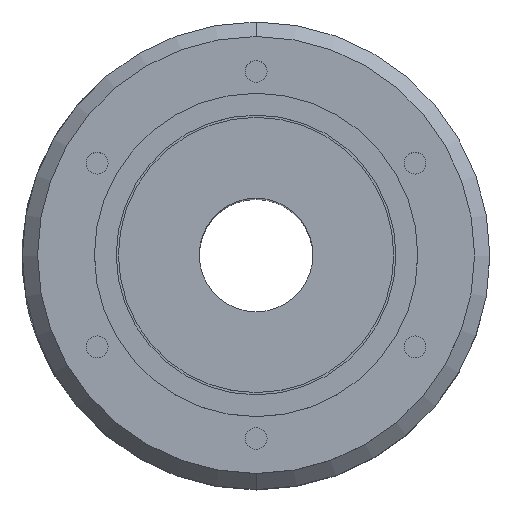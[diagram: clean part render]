
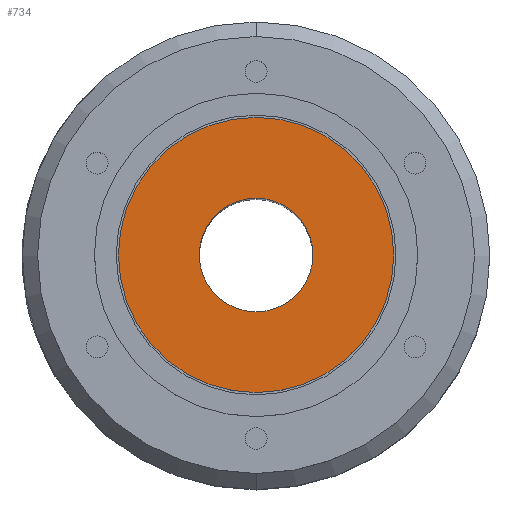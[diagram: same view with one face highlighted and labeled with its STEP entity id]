
A CAD part, top view. The second image highlights one B-rep face of the part: STEP entity #734.
In plain terms, the highlighted planar face has unit normal (0, 0, 1).
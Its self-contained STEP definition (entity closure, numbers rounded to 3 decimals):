
#261 = VERTEX_POINT ( 'NONE', #1274 ) ;
#262 = VERTEX_POINT ( 'NONE', #1275 ) ;
#285 = EDGE_CURVE ( 'NONE', #261, #262, #1307, .T. ) ;
#369 = VERTEX_POINT ( 'NONE', #1490 ) ;
#370 = EDGE_CURVE ( 'NONE', #385, #369, #1488, .T. ) ;
#385 = VERTEX_POINT ( 'NONE', #1528 ) ;
#724 = ORIENTED_EDGE ( 'NONE', *, *, #808, .T. ) ;
#734 = ADVANCED_FACE ( 'NONE', ( #2094, #2112 ), #2118, .T. ) ;
#735 = EDGE_LOOP ( 'NONE', ( #724, #751 ) ) ;
#743 = EDGE_CURVE ( 'NONE', #262, #261, #2162, .T. ) ;
#744 = ORIENTED_EDGE ( 'NONE', *, *, #285, .T. ) ;
#747 = ORIENTED_EDGE ( 'NONE', *, *, #743, .T. ) ;
#751 = ORIENTED_EDGE ( 'NONE', *, *, #370, .T. ) ;
#752 = EDGE_LOOP ( 'NONE', ( #744, #747 ) ) ;
#808 = EDGE_CURVE ( 'NONE', #369, #385, #2240, .T. ) ;
#1274 = CARTESIAN_POINT ( 'NONE',  ( 31.5, 0., 167. ) ) ;
#1275 = CARTESIAN_POINT ( 'NONE',  ( -31.5, 0., 167. ) ) ;
#1285 = DIRECTION ( 'NONE',  ( 1., 0., 0. ) ) ;
#1286 = DIRECTION ( 'NONE',  ( 0., 0., 1. ) ) ;
#1296 = AXIS2_PLACEMENT_3D ( 'NONE', #1306, #1286, #1285 ) ;
#1306 = CARTESIAN_POINT ( 'NONE',  ( 0., 0., 167. ) ) ;
#1307 = CIRCLE ( 'NONE', #1296, 31.5 ) ;
#1477 = AXIS2_PLACEMENT_3D ( 'NONE', #1489, #1497, #1539 ) ;
#1488 = CIRCLE ( 'NONE', #1477, 13. ) ;
#1489 = CARTESIAN_POINT ( 'NONE',  ( 0., 0., 167. ) ) ;
#1490 = CARTESIAN_POINT ( 'NONE',  ( 0., 13., 167. ) ) ;
#1497 = DIRECTION ( 'NONE',  ( 0., 0., -1. ) ) ;
#1528 = CARTESIAN_POINT ( 'NONE',  ( 0., -13., 167. ) ) ;
#1539 = DIRECTION ( 'NONE',  ( 0., 1., 0. ) ) ;
#2079 = CARTESIAN_POINT ( 'NONE',  ( 0., -13., 167. ) ) ;
#2094 = FACE_BOUND ( 'NONE', #735, .T. ) ;
#2109 = DIRECTION ( 'NONE',  ( 0., -1., 0. ) ) ;
#2110 = DIRECTION ( 'NONE',  ( 0., 0., 1. ) ) ;
#2112 = FACE_OUTER_BOUND ( 'NONE', #752, .T. ) ;
#2116 = AXIS2_PLACEMENT_3D ( 'NONE', #2079, #2110, #2109 ) ;
#2118 = PLANE ( 'NONE',  #2116 ) ;
#2145 = DIRECTION ( 'NONE',  ( 1., 0., 0. ) ) ;
#2146 = DIRECTION ( 'NONE',  ( 0., 0., 1. ) ) ;
#2147 = AXIS2_PLACEMENT_3D ( 'NONE', #2150, #2146, #2145 ) ;
#2150 = CARTESIAN_POINT ( 'NONE',  ( 0., 0., 167. ) ) ;
#2162 = CIRCLE ( 'NONE', #2147, 31.5 ) ;
#2208 = CARTESIAN_POINT ( 'NONE',  ( 0., 0., 167. ) ) ;
#2237 = DIRECTION ( 'NONE',  ( 0., 1., 0. ) ) ;
#2238 = DIRECTION ( 'NONE',  ( 0., 0., -1. ) ) ;
#2240 = CIRCLE ( 'NONE', #2249, 13. ) ;
#2249 = AXIS2_PLACEMENT_3D ( 'NONE', #2208, #2238, #2237 ) ;
